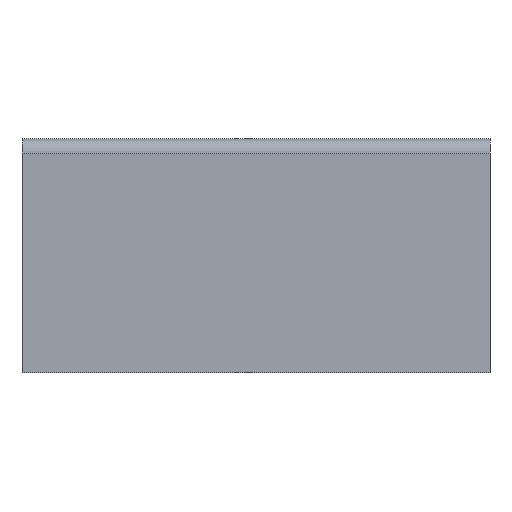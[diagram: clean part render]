
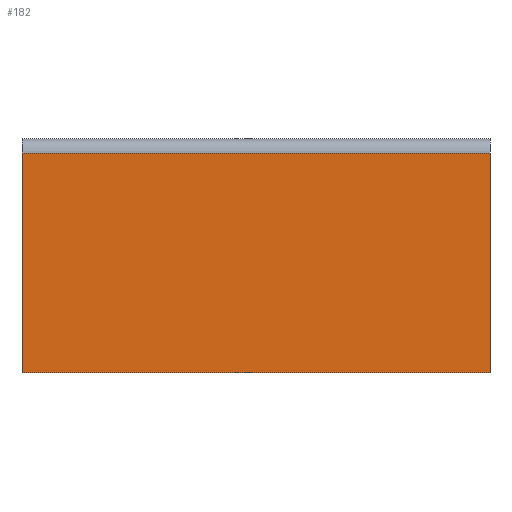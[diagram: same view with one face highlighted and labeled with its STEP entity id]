
A CAD part, front view. The second image highlights one B-rep face of the part: STEP entity #182.
In plain terms, the highlighted planar face has unit normal (0, -1, 0).
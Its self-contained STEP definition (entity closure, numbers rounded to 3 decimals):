
#3 = ORIENTED_EDGE ( 'NONE', *, *, #62, .T. ) ;
#13 = DIRECTION ( 'NONE',  ( -1., 0., 0. ) ) ;
#17 = EDGE_CURVE ( 'NONE', #94, #219, #126, .T. ) ;
#40 = CARTESIAN_POINT ( 'NONE',  ( 20., 0., 0. ) ) ;
#62 = EDGE_CURVE ( 'NONE', #94, #120, #147, .T. ) ;
#63 = ORIENTED_EDGE ( 'NONE', *, *, #17, .F. ) ;
#64 = VERTEX_POINT ( 'NONE', #281 ) ;
#66 = CARTESIAN_POINT ( 'NONE',  ( -20., 0., 18.8 ) ) ;
#70 = LINE ( 'NONE', #99, #230 ) ;
#72 = DIRECTION ( 'NONE',  ( 0., 1., 0. ) ) ;
#74 = DIRECTION ( 'NONE',  ( -1., 0., 0. ) ) ;
#81 = VECTOR ( 'NONE', #13, 1000. ) ;
#86 = ORIENTED_EDGE ( 'NONE', *, *, #146, .F. ) ;
#94 = VERTEX_POINT ( 'NONE', #233 ) ;
#99 = CARTESIAN_POINT ( 'NONE',  ( -20., 0., 18.8 ) ) ;
#101 = PLANE ( 'NONE',  #269 ) ;
#120 = VERTEX_POINT ( 'NONE', #66 ) ;
#126 = LINE ( 'NONE', #198, #290 ) ;
#146 = EDGE_CURVE ( 'NONE', #219, #64, #306, .T. ) ;
#147 = LINE ( 'NONE', #312, #216 ) ;
#160 = EDGE_CURVE ( 'NONE', #120, #64, #70, .T. ) ;
#166 = EDGE_LOOP ( 'NONE', ( #325, #86, #63, #3 ) ) ;
#182 = ADVANCED_FACE ( 'NONE', ( #337 ), #101, .F. ) ;
#185 = CARTESIAN_POINT ( 'NONE',  ( 20., 0., 0. ) ) ;
#198 = CARTESIAN_POINT ( 'NONE',  ( 20., 0., 18.8 ) ) ;
#203 = DIRECTION ( 'NONE',  ( 0., 0., -1. ) ) ;
#208 = DIRECTION ( 'NONE',  ( 0., 0., 1. ) ) ;
#216 = VECTOR ( 'NONE', #74, 1000. ) ;
#219 = VERTEX_POINT ( 'NONE', #185 ) ;
#230 = VECTOR ( 'NONE', #203, 1000. ) ;
#233 = CARTESIAN_POINT ( 'NONE',  ( 20., 0., 18.8 ) ) ;
#259 = DIRECTION ( 'NONE',  ( 0., 0., -1. ) ) ;
#269 = AXIS2_PLACEMENT_3D ( 'NONE', #311, #72, #208 ) ;
#281 = CARTESIAN_POINT ( 'NONE',  ( -20., 0., 0. ) ) ;
#290 = VECTOR ( 'NONE', #259, 1000. ) ;
#306 = LINE ( 'NONE', #40, #81 ) ;
#311 = CARTESIAN_POINT ( 'NONE',  ( 20., 0., 18.8 ) ) ;
#312 = CARTESIAN_POINT ( 'NONE',  ( 20., 0., 18.8 ) ) ;
#325 = ORIENTED_EDGE ( 'NONE', *, *, #160, .T. ) ;
#337 = FACE_OUTER_BOUND ( 'NONE', #166, .T. ) ;
